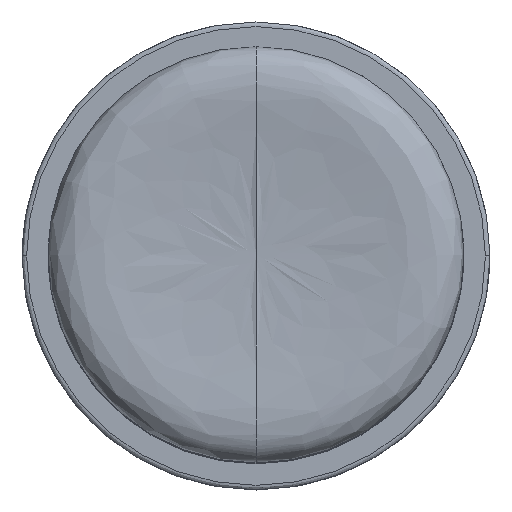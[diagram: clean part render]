
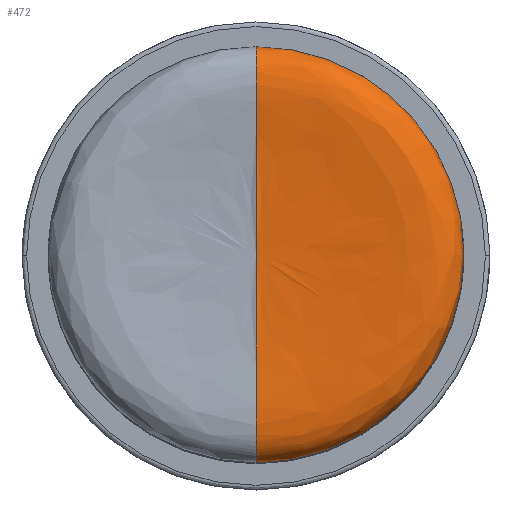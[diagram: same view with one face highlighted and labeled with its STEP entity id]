
A CAD part, top view. The second image highlights one B-rep face of the part: STEP entity #472.
In plain terms, the highlighted free-form (B-spline) face has degree [3, 2] with [6, 5] control points.
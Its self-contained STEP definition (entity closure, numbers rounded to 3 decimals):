
#8 = CARTESIAN_POINT ( 'NONE',  ( 0., -791.531, 759.166 ) ) ;
#35 = CARTESIAN_POINT ( 'NONE',  ( 0., -811.143, 751.056 ) ) ;
#96 = CARTESIAN_POINT ( 'NONE',  ( 0., -488.47, 759.166 ) ) ;
#106 = CARTESIAN_POINT ( 'NONE',  ( 0., -507.889, 757.573 ) ) ;
#135 = CARTESIAN_POINT ( 'NONE',  ( 0., -803.873, 756.37 ) ) ;
#169 = EDGE_LOOP ( 'NONE', ( #1333, #327, #1390 ) ) ;
#216 = DIRECTION ( 'NONE',  ( 0., 1., 0. ) ) ;
#222 = CARTESIAN_POINT ( 'NONE',  ( 139.188, -640., 761.961 ) ) ;
#327 = ORIENTED_EDGE ( 'NONE', *, *, #940, .F. ) ;
#334 = CARTESIAN_POINT ( 'NONE',  ( 0., -640., 750. ) ) ;
#348 = CARTESIAN_POINT ( 'NONE',  ( 86.195, -640., 750. ) ) ;
#354 = DIRECTION ( 'NONE',  ( 0., 0., -1. ) ) ;
#359 = CARTESIAN_POINT ( 'NONE',  ( 0., -640., 750. ) ) ;
#369 = FACE_OUTER_BOUND ( 'NONE', #169, .T. ) ;
#444 = AXIS2_PLACEMENT_3D ( 'NONE', #1517, #354, #216 ) ;
#454 = CARTESIAN_POINT ( 'NONE',  ( 179.985, -819.985, 733. ) ) ;
#460 = CARTESIAN_POINT ( 'NONE',  ( 0., -553.805, 750. ) ) ;
#466 = CARTESIAN_POINT ( 'NONE',  ( 0., -464.787, 753.801 ) ) ;
#472 = ADVANCED_FACE ( 'NONE', ( #369 ), #616, .T. ) ;
#504 = CARTESIAN_POINT ( 'NONE',  ( 0., -772.111, 757.573 ) ) ;
#506 = CIRCLE ( 'NONE', #444, 179.985 ) ;
#515 = CARTESIAN_POINT ( 'NONE',  ( 0., -460.015, 733. ) ) ;
#517 =( BOUNDED_CURVE ( )  B_SPLINE_CURVE ( 3, ( #334, #1025, #1163, #106, #96, #1396, #803, #1501, #928, #1402 ),
 .UNSPECIFIED., .F., .F. ) 
 B_SPLINE_CURVE_WITH_KNOTS ( ( 4, 3, 3, 4 ),
 ( -193.726, -62.315, -21.613, 0. ),
 .UNSPECIFIED. ) 
 CURVE ( )  GEOMETRIC_REPRESENTATION_ITEM ( )  RATIONAL_B_SPLINE_CURVE ( ( 1., 1., 1., 1., 1., 1., 1., 1., 1., 1. ) ) 
 REPRESENTATION_ITEM ( '' )  );
#567 = CARTESIAN_POINT ( 'NONE',  ( 0., -819.985, 733. ) ) ;
#582 = EDGE_CURVE ( 'NONE', #1447, #1511, #779, .T. ) ;
#609 = CARTESIAN_POINT ( 'NONE',  ( 0., -817.821, 746.173 ) ) ;
#615 = CARTESIAN_POINT ( 'NONE',  ( 0., -820.217, 739.165 ) ) ;
#616 =( BOUNDED_SURFACE ( )  B_SPLINE_SURFACE ( 3, 2, ( 
 ( #941, #1416, #1299, #454, #567 ),
 ( #1513, #833, #709, #1280, #719 ),
 ( #466, #1032, #915, #1160, #1393 ),
 ( #1049, #1173, #222, #686, #925 ),
 ( #460, #1399, #348, #809, #1287 ),
 ( #1521, #931, #1409, #359, #819 ) ),
 .UNSPECIFIED., .F., .F., .F. ) 
 B_SPLINE_SURFACE_WITH_KNOTS ( ( 4, 1, 1, 4 ),
 ( 3, 2, 3 ),
 ( 0., 60.979, 127.353, 193.726 ),
 ( 565.486, 848.229, 1130.971 ),
 .UNSPECIFIED. ) 
 GEOMETRIC_REPRESENTATION_ITEM ( )  RATIONAL_B_SPLINE_SURFACE ( (
 ( 1., 0.707, 1., 0.707, 1.),
 ( 1., 0.707, 1., 0.707, 1.),
 ( 1., 0.707, 1., 0.707, 1.),
 ( 1., 0.707, 1., 0.707, 1.),
 ( 1., 0.707, 1., 0.707, 1.),
 ( 1., 0.707, 1., 0.707, 1.) ) ) 
 REPRESENTATION_ITEM ( '' )  SURFACE ( )  );
#652 = CARTESIAN_POINT ( 'NONE',  ( 0., -640., 750. ) ) ;
#686 = CARTESIAN_POINT ( 'NONE',  ( 139.188, -779.188, 761.961 ) ) ;
#709 = CARTESIAN_POINT ( 'NONE',  ( 180.217, -640., 739.165 ) ) ;
#719 = CARTESIAN_POINT ( 'NONE',  ( 0., -820.217, 739.165 ) ) ;
#754 = EDGE_CURVE ( 'NONE', #1251, #1447, #506, .T. ) ;
#779 =( BOUNDED_CURVE ( )  B_SPLINE_CURVE ( 3, ( #1322, #615, #609, #35, #135, #8, #504, #977, #1086, #1067 ),
 .UNSPECIFIED., .F., .T. ) 
 B_SPLINE_CURVE_WITH_KNOTS ( ( 4, 3, 3, 4 ),
 ( 0., 21.613, 62.315, 193.726 ),
 .UNSPECIFIED. ) 
 CURVE ( )  GEOMETRIC_REPRESENTATION_ITEM ( )  RATIONAL_B_SPLINE_CURVE ( ( 1., 1., 1., 1., 1., 1., 1., 1., 1., 1. ) ) 
 REPRESENTATION_ITEM ( '' )  );
#803 = CARTESIAN_POINT ( 'NONE',  ( 0., -468.857, 751.056 ) ) ;
#809 = CARTESIAN_POINT ( 'NONE',  ( 86.195, -726.196, 750. ) ) ;
#819 = CARTESIAN_POINT ( 'NONE',  ( 0., -640., 750. ) ) ;
#833 = CARTESIAN_POINT ( 'NONE',  ( 180.217, -459.783, 739.165 ) ) ;
#915 = CARTESIAN_POINT ( 'NONE',  ( 175.213, -640., 753.801 ) ) ;
#925 = CARTESIAN_POINT ( 'NONE',  ( 0., -779.188, 761.961 ) ) ;
#928 = CARTESIAN_POINT ( 'NONE',  ( 0., -459.783, 739.165 ) ) ;
#931 = CARTESIAN_POINT ( 'NONE',  ( 0., -640., 750. ) ) ;
#940 = EDGE_CURVE ( 'NONE', #1511, #1251, #517, .T. ) ;
#941 = CARTESIAN_POINT ( 'NONE',  ( 0., -460.015, 733. ) ) ;
#977 = CARTESIAN_POINT ( 'NONE',  ( 0., -752.692, 755.981 ) ) ;
#1025 = CARTESIAN_POINT ( 'NONE',  ( 0., -553.805, 750. ) ) ;
#1032 = CARTESIAN_POINT ( 'NONE',  ( 175.213, -464.787, 753.801 ) ) ;
#1049 = CARTESIAN_POINT ( 'NONE',  ( 0., -500.812, 761.961 ) ) ;
#1067 = CARTESIAN_POINT ( 'NONE',  ( 0., -640., 750. ) ) ;
#1086 = CARTESIAN_POINT ( 'NONE',  ( 0., -726.196, 750. ) ) ;
#1160 = CARTESIAN_POINT ( 'NONE',  ( 175.213, -815.213, 753.801 ) ) ;
#1163 = CARTESIAN_POINT ( 'NONE',  ( 0., -527.308, 755.981 ) ) ;
#1173 = CARTESIAN_POINT ( 'NONE',  ( 139.188, -500.812, 761.961 ) ) ;
#1245 = CARTESIAN_POINT ( 'NONE',  ( 0., -819.985, 733. ) ) ;
#1251 = VERTEX_POINT ( 'NONE', #515 ) ;
#1280 = CARTESIAN_POINT ( 'NONE',  ( 180.217, -820.217, 739.165 ) ) ;
#1287 = CARTESIAN_POINT ( 'NONE',  ( 0., -726.196, 750. ) ) ;
#1299 = CARTESIAN_POINT ( 'NONE',  ( 179.985, -640., 733. ) ) ;
#1322 = CARTESIAN_POINT ( 'NONE',  ( 0., -819.985, 733. ) ) ;
#1333 = ORIENTED_EDGE ( 'NONE', *, *, #754, .F. ) ;
#1390 = ORIENTED_EDGE ( 'NONE', *, *, #582, .F. ) ;
#1393 = CARTESIAN_POINT ( 'NONE',  ( 0., -815.213, 753.801 ) ) ;
#1396 = CARTESIAN_POINT ( 'NONE',  ( 0., -476.127, 756.37 ) ) ;
#1399 = CARTESIAN_POINT ( 'NONE',  ( 86.195, -553.805, 750. ) ) ;
#1402 = CARTESIAN_POINT ( 'NONE',  ( 0., -460.015, 733. ) ) ;
#1409 = CARTESIAN_POINT ( 'NONE',  ( 0., -640., 750. ) ) ;
#1416 = CARTESIAN_POINT ( 'NONE',  ( 179.985, -460.015, 733. ) ) ;
#1447 = VERTEX_POINT ( 'NONE', #1245 ) ;
#1501 = CARTESIAN_POINT ( 'NONE',  ( 0., -462.179, 746.173 ) ) ;
#1511 = VERTEX_POINT ( 'NONE', #652 ) ;
#1513 = CARTESIAN_POINT ( 'NONE',  ( 0., -459.783, 739.165 ) ) ;
#1517 = CARTESIAN_POINT ( 'NONE',  ( 0., -640., 733. ) ) ;
#1521 = CARTESIAN_POINT ( 'NONE',  ( 0., -640., 750. ) ) ;
